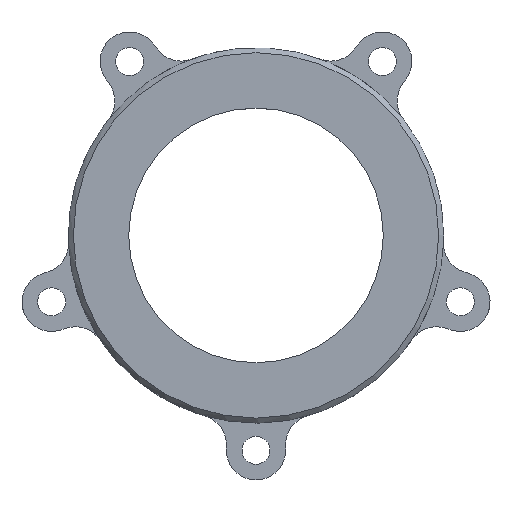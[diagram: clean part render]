
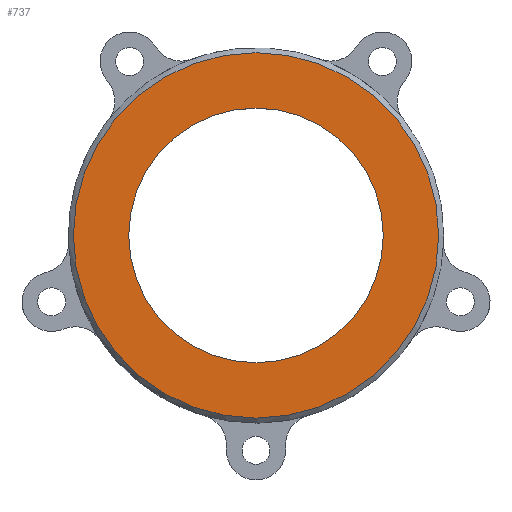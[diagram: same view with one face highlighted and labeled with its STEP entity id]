
A CAD part, top view. The second image highlights one B-rep face of the part: STEP entity #737.
In plain terms, the highlighted planar face has unit normal (0, 0, 1).
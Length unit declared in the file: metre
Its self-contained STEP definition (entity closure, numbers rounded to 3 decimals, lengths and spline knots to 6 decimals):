
#15=PLANE('',#827);
#194=ORIENTED_EDGE('',*,*,#398,.T.);
#195=ORIENTED_EDGE('',*,*,#397,.F.);
#397=EDGE_CURVE('',#498,#498,#559,.T.);
#398=EDGE_CURVE('',#499,#499,#560,.T.);
#498=VERTEX_POINT('',#1243);
#499=VERTEX_POINT('',#1246);
#559=CIRCLE('',#826,0.020463);
#560=CIRCLE('',#828,0.029369);
#596=EDGE_LOOP('',(#194));
#597=EDGE_LOOP('',(#195));
#660=FACE_BOUND('',#596,.T.);
#661=FACE_BOUND('',#597,.T.);
#737=ADVANCED_FACE('',(#660,#661),#15,.T.);
#826=AXIS2_PLACEMENT_3D('',#1242,#985,#986);
#827=AXIS2_PLACEMENT_3D('',#1244,#987,#988);
#828=AXIS2_PLACEMENT_3D('',#1245,#989,#990);
#985=DIRECTION('',(0.,0.,1.));
#986=DIRECTION('',(1.,0.,0.));
#987=DIRECTION('',(0.,0.,1.));
#988=DIRECTION('',(1.,0.,0.));
#989=DIRECTION('',(0.,0.,1.));
#990=DIRECTION('',(1.,0.,0.));
#1242=CARTESIAN_POINT('',(0.,0.,0.058816));
#1243=CARTESIAN_POINT('',(0.020463,0.,0.058816));
#1244=CARTESIAN_POINT('',(0.,0.,0.058816));
#1245=CARTESIAN_POINT('',(0.,0.,0.058816));
#1246=CARTESIAN_POINT('',(0.029369,0.,0.058816));
